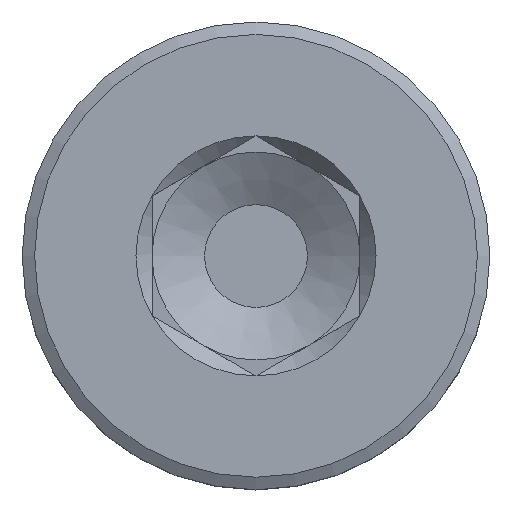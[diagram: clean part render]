
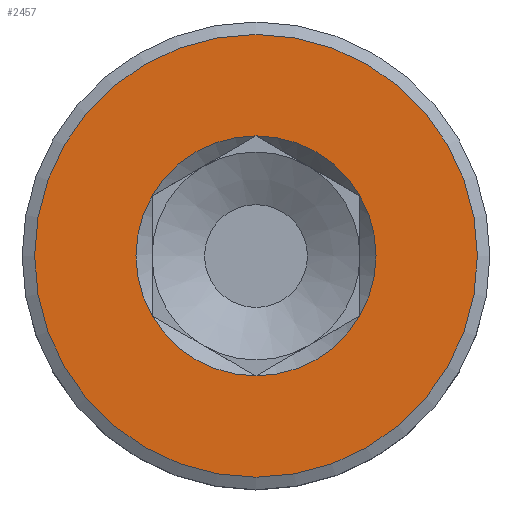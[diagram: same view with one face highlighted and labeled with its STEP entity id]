
A CAD part, top view. The second image highlights one B-rep face of the part: STEP entity #2457.
In plain terms, the highlighted planar face has unit normal (0, 0, 1).
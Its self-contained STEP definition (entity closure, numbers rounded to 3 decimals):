
#89=FACE_BOUND('',#319,.T.);
#93=PLANE('',#2654);
#163=FACE_OUTER_BOUND('',#318,.T.);
#318=EDGE_LOOP('',(#1659,#1660));
#319=EDGE_LOOP('',(#1661,#1662,#1663,#1664,#1665,#1666));
#470=CIRCLE('',#2652,4.619);
#471=CIRCLE('',#2655,8.52);
#472=CIRCLE('',#2656,8.52);
#473=CIRCLE('',#2657,4.619);
#474=CIRCLE('',#2658,4.619);
#475=CIRCLE('',#2659,4.619);
#476=CIRCLE('',#2660,4.619);
#477=CIRCLE('',#2661,4.619);
#969=VERTEX_POINT('',#3740);
#970=VERTEX_POINT('',#3741);
#974=VERTEX_POINT('',#3755);
#975=VERTEX_POINT('',#3756);
#976=VERTEX_POINT('',#3759);
#977=VERTEX_POINT('',#3761);
#978=VERTEX_POINT('',#3763);
#979=VERTEX_POINT('',#3765);
#1234=EDGE_CURVE('',#969,#970,#470,.T.);
#1240=EDGE_CURVE('',#974,#975,#471,.T.);
#1241=EDGE_CURVE('',#975,#974,#472,.T.);
#1242=EDGE_CURVE('',#976,#969,#473,.T.);
#1243=EDGE_CURVE('',#977,#976,#474,.T.);
#1244=EDGE_CURVE('',#978,#977,#475,.T.);
#1245=EDGE_CURVE('',#979,#978,#476,.T.);
#1246=EDGE_CURVE('',#970,#979,#477,.T.);
#1659=ORIENTED_EDGE('',*,*,#1240,.T.);
#1660=ORIENTED_EDGE('',*,*,#1241,.T.);
#1661=ORIENTED_EDGE('',*,*,#1234,.F.);
#1662=ORIENTED_EDGE('',*,*,#1242,.F.);
#1663=ORIENTED_EDGE('',*,*,#1243,.F.);
#1664=ORIENTED_EDGE('',*,*,#1244,.F.);
#1665=ORIENTED_EDGE('',*,*,#1245,.F.);
#1666=ORIENTED_EDGE('',*,*,#1246,.F.);
#2457=ADVANCED_FACE('',(#163,#89),#93,.T.);
#2652=AXIS2_PLACEMENT_3D('',#3742,#2971,#2972);
#2654=AXIS2_PLACEMENT_3D('',#3754,#2979,#2980);
#2655=AXIS2_PLACEMENT_3D('',#3757,#2981,#2982);
#2656=AXIS2_PLACEMENT_3D('',#3758,#2983,#2984);
#2657=AXIS2_PLACEMENT_3D('',#3760,#2985,#2986);
#2658=AXIS2_PLACEMENT_3D('',#3762,#2987,#2988);
#2659=AXIS2_PLACEMENT_3D('',#3764,#2989,#2990);
#2660=AXIS2_PLACEMENT_3D('',#3766,#2991,#2992);
#2661=AXIS2_PLACEMENT_3D('',#3767,#2993,#2994);
#2971=DIRECTION('center_axis',(0.,0.,1.));
#2972=DIRECTION('ref_axis',(1.,0.,0.));
#2979=DIRECTION('center_axis',(0.,0.,1.));
#2980=DIRECTION('ref_axis',(1.,0.,0.));
#2981=DIRECTION('center_axis',(0.,0.,1.));
#2982=DIRECTION('ref_axis',(1.,0.,0.));
#2983=DIRECTION('center_axis',(0.,0.,1.));
#2984=DIRECTION('ref_axis',(1.,0.,0.));
#2985=DIRECTION('center_axis',(0.,0.,1.));
#2986=DIRECTION('ref_axis',(1.,0.,0.));
#2987=DIRECTION('center_axis',(0.,0.,1.));
#2988=DIRECTION('ref_axis',(1.,0.,0.));
#2989=DIRECTION('center_axis',(0.,0.,1.));
#2990=DIRECTION('ref_axis',(1.,0.,0.));
#2991=DIRECTION('center_axis',(0.,0.,1.));
#2992=DIRECTION('ref_axis',(1.,0.,0.));
#2993=DIRECTION('center_axis',(0.,0.,1.));
#2994=DIRECTION('ref_axis',(1.,0.,0.));
#3740=CARTESIAN_POINT('',(4.,2.309,7.));
#3741=CARTESIAN_POINT('',(0.,4.619,7.));
#3742=CARTESIAN_POINT('Origin',(0.,0.,7.));
#3754=CARTESIAN_POINT('Origin',(0.,0.,7.));
#3755=CARTESIAN_POINT('',(-8.52,0.,7.));
#3756=CARTESIAN_POINT('',(8.52,0.,7.));
#3757=CARTESIAN_POINT('Origin',(0.,0.,7.));
#3758=CARTESIAN_POINT('Origin',(0.,0.,7.));
#3759=CARTESIAN_POINT('',(4.,-2.309,7.));
#3760=CARTESIAN_POINT('Origin',(0.,0.,7.));
#3761=CARTESIAN_POINT('',(0.,-4.619,7.));
#3762=CARTESIAN_POINT('Origin',(0.,0.,7.));
#3763=CARTESIAN_POINT('',(-4.,-2.309,7.));
#3764=CARTESIAN_POINT('Origin',(0.,0.,7.));
#3765=CARTESIAN_POINT('',(-4.,2.309,7.));
#3766=CARTESIAN_POINT('Origin',(0.,0.,7.));
#3767=CARTESIAN_POINT('Origin',(0.,0.,7.));
